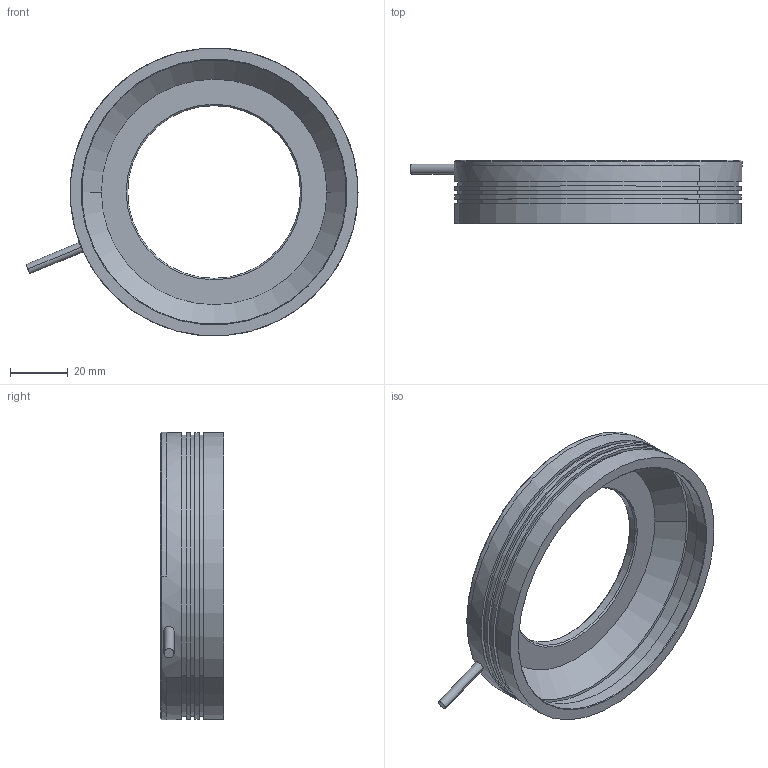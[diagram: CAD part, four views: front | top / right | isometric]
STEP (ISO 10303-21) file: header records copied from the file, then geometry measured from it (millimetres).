
FILE_DESCRIPTION((''),'2;1');
FILE_NAME('P-RL-100-45-S_ASM','2021-07-14T',('Administrator'),(''),'PRO/ENGINEER BY PARAMETRIC TECHNOLOGY CORPORATION, 2010100','PRO/ENGINEER BY PARAMETRIC TECHNOLOGY CORPORATION, 2010100','');
FILE_SCHEMA(('CONFIG_CONTROL_DESIGN'));
Length unit declared in the file: millimetre
Products named in the file (2): P-RL-100-45-S-1; P-RL-100-45-S_ASM
Assembly tree (1 placements, depth 2):
  P-RL-100-45-S_ASM
    P-RL-100-45-S-1
Bounding box: 115.34 x 22 x 100 mm (x, y, z)
Volume: 42194.9 mm3; surface area: 25047.7 mm2
Topology: 1 solids, 5 shells, 72 faces, 164 edges, 104 vertices
Faces by surface type: cylinder 38, cone 18, plane 16
Entity records: 2152 total; most frequent: CARTESIAN_POINT 405, DIRECTION 404, ORIENTED_EDGE 296, AXIS2_PLACEMENT_3D 173, EDGE_CURVE 156, VERTEX_POINT 104, CIRCLE 96, EDGE_LOOP 92
